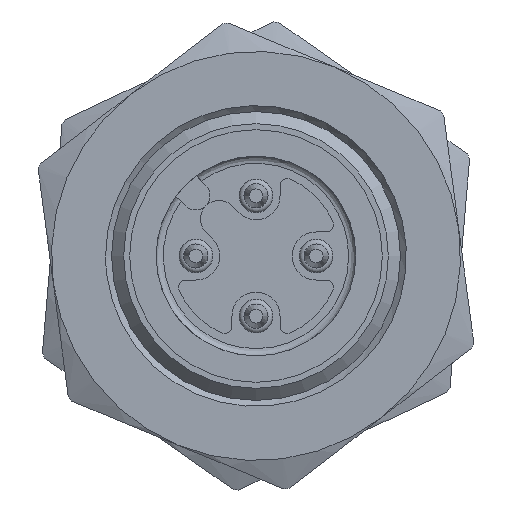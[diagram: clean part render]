
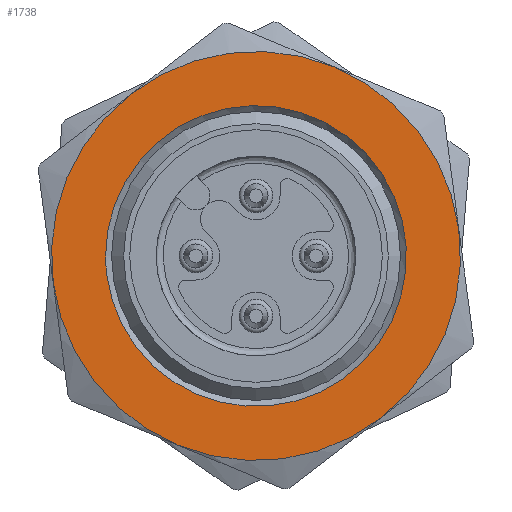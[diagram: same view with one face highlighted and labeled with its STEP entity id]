
A CAD part, front view. The second image highlights one B-rep face of the part: STEP entity #1738.
In plain terms, the highlighted planar face has unit normal (0, -1, 0).
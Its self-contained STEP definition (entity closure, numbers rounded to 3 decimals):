
#1586=CARTESIAN_POINT('',(-6.196,27.939,-0.818));
#1587=VERTEX_POINT('',#1586);
#1588=CARTESIAN_POINT('',(0.0,27.939,0.0));
#1589=DIRECTION('',(0.0,-1.,0.0));
#1590=DIRECTION('',(0.991,0.0,0.131));
#1591=AXIS2_PLACEMENT_3D('',#1588,#1589,#1590);
#1592=CIRCLE('',#1591,6.25);
#1593=EDGE_CURVE('',#1587,#1587,#1592,.T.);
#1674=CARTESIAN_POINT('',(-6.94,27.939,-0.916));
#1675=DIRECTION('',(0.0,-1.0,0.0));
#1676=DIRECTION('',(0.131,0.0,-0.991));
#1677=AXIS2_PLACEMENT_3D('',#1674,#1675,#1676);
#1678=PLANE('',#1677);
#1679=CARTESIAN_POINT('',(-8.427,27.939,-1.112));
#1680=VERTEX_POINT('',#1679);
#1681=CARTESIAN_POINT('',(-5.177,27.939,6.742));
#1682=VERTEX_POINT('',#1681);
#1683=CARTESIAN_POINT('',(0.0,27.939,0.0));
#1684=DIRECTION('',(0.,1.,0.));
#1685=DIRECTION('',(-0.991,0.,-0.131));
#1686=AXIS2_PLACEMENT_3D('',#1683,#1684,#1685);
#1687=CIRCLE('',#1686,8.5);
#1688=EDGE_CURVE('',#1680,#1682,#1687,.T.);
#1689=ORIENTED_EDGE('',*,*,#1688,.F.);
#1690=CARTESIAN_POINT('',(-3.25,27.939,-7.854));
#1691=VERTEX_POINT('',#1690);
#1692=CARTESIAN_POINT('',(0.0,27.939,0.0));
#1693=DIRECTION('',(0.,1.,0.));
#1694=DIRECTION('',(-0.991,0.,-0.131));
#1695=AXIS2_PLACEMENT_3D('',#1692,#1693,#1694);
#1696=CIRCLE('',#1695,8.5);
#1697=EDGE_CURVE('',#1691,#1680,#1696,.T.);
#1698=ORIENTED_EDGE('',*,*,#1697,.F.);
#1699=CARTESIAN_POINT('',(5.177,27.939,-6.742));
#1700=VERTEX_POINT('',#1699);
#1701=CARTESIAN_POINT('',(0.0,27.939,0.0));
#1702=DIRECTION('',(0.,1.,0.));
#1703=DIRECTION('',(-0.991,0.,-0.131));
#1704=AXIS2_PLACEMENT_3D('',#1701,#1702,#1703);
#1705=CIRCLE('',#1704,8.5);
#1706=EDGE_CURVE('',#1700,#1691,#1705,.T.);
#1707=ORIENTED_EDGE('',*,*,#1706,.F.);
#1708=CARTESIAN_POINT('',(8.427,27.939,1.112));
#1709=VERTEX_POINT('',#1708);
#1710=CARTESIAN_POINT('',(0.0,27.939,0.0));
#1711=DIRECTION('',(0.,1.,0.));
#1712=DIRECTION('',(-0.991,0.,-0.131));
#1713=AXIS2_PLACEMENT_3D('',#1710,#1711,#1712);
#1714=CIRCLE('',#1713,8.5);
#1715=EDGE_CURVE('',#1709,#1700,#1714,.T.);
#1716=ORIENTED_EDGE('',*,*,#1715,.F.);
#1717=CARTESIAN_POINT('',(3.25,27.939,7.854));
#1718=VERTEX_POINT('',#1717);
#1719=CARTESIAN_POINT('',(0.0,27.939,0.0));
#1720=DIRECTION('',(0.,1.,0.));
#1721=DIRECTION('',(-0.991,0.,-0.131));
#1722=AXIS2_PLACEMENT_3D('',#1719,#1720,#1721);
#1723=CIRCLE('',#1722,8.5);
#1724=EDGE_CURVE('',#1718,#1709,#1723,.T.);
#1725=ORIENTED_EDGE('',*,*,#1724,.F.);
#1726=CARTESIAN_POINT('',(0.0,27.939,0.0));
#1727=DIRECTION('',(0.,1.,0.));
#1728=DIRECTION('',(-0.991,0.,-0.131));
#1729=AXIS2_PLACEMENT_3D('',#1726,#1727,#1728);
#1730=CIRCLE('',#1729,8.5);
#1731=EDGE_CURVE('',#1682,#1718,#1730,.T.);
#1732=ORIENTED_EDGE('',*,*,#1731,.F.);
#1733=EDGE_LOOP('',(#1689,#1698,#1707,#1716,#1725,#1732));
#1734=FACE_OUTER_BOUND('',#1733,.T.);
#1735=ORIENTED_EDGE('',*,*,#1593,.F.);
#1736=EDGE_LOOP('',(#1735));
#1737=FACE_BOUND('',#1736,.T.);
#1738=ADVANCED_FACE('',(#1734,#1737),#1678,.T.);
